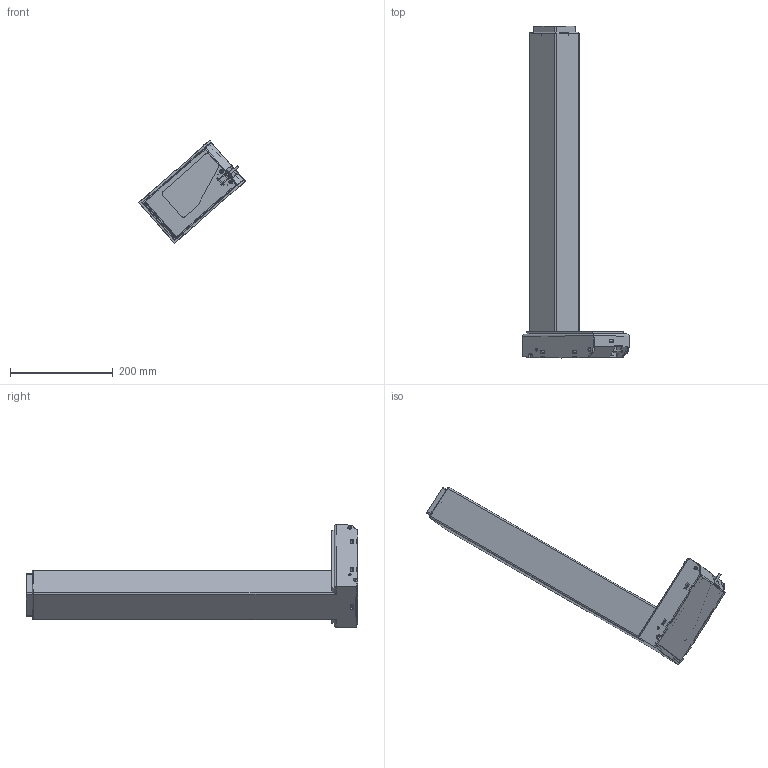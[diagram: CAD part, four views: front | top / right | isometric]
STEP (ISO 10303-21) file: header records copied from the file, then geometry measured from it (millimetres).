
FILE_DESCRIPTION (( 'STEP AP203' ), '1' );
FILE_NAME ('3D_TL28.STEP', '2020-05-21T06:24:10', ( '' ), ( '' ), 'SwSTEP 2.0', 'SolidWorks 2015', '' );
FILE_SCHEMA (( 'CONFIG_CONTROL_DESIGN' ));
Length unit declared in the file: millimetre
Products named in the file (1): 3D_TL28
Bounding box: 206.39 x 645 x 199.21 mm (x, y, z)
Volume: 840330.4 mm3; surface area: 724594.3 mm2
Topology: 7 solids, 7 shells, 1251 faces, 3246 edges, 1938 vertices
Faces by surface type: cylinder 566, plane 461, sphere 73, bspline 67, torus 64, cone 20
Entity records: 41849 total; most frequent: CARTESIAN_POINT 12217, ORIENTED_EDGE 6332, DIRECTION 6132, EDGE_CURVE 3166, AXIS2_PLACEMENT_3D 2157, VERTEX_POINT 1938, VECTOR 1818, LINE 1818
